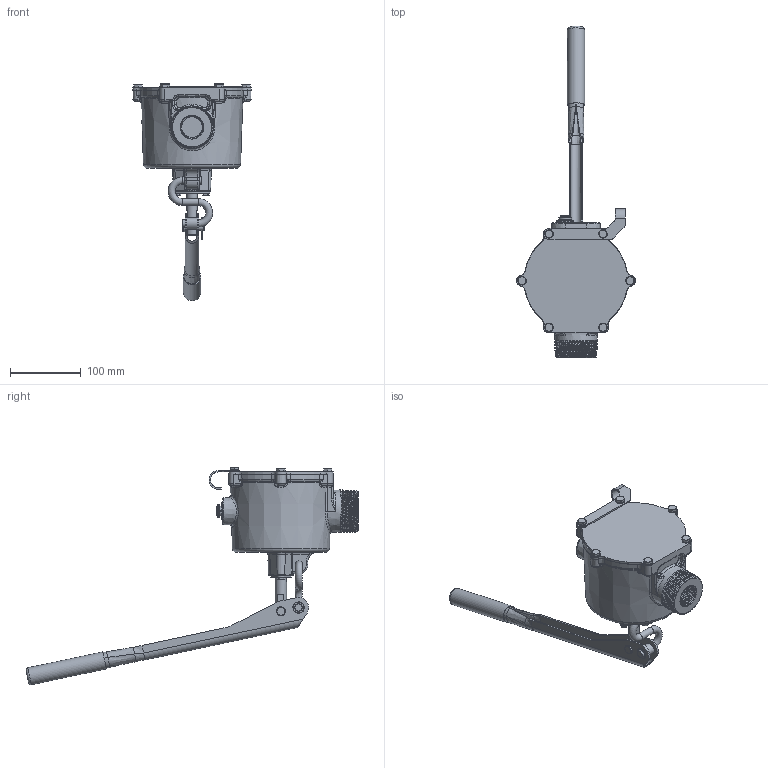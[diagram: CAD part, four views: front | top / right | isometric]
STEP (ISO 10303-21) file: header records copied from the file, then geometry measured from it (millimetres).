
FILE_DESCRIPTION(/* description */ (''),/* implementation_level */ '2;1');
FILE_NAME(/* name */ 'C:\Vault Projects\GPI Eng\New Projects\DHarris\Website model updates\STEP\HP-90.stp',/* time_stamp */ '2022-07-18T12:43:42-05:00',/* author */ ('gdanhar'),/* organization */ (''),/* preprocessor_version */ 'ST-DEVELOPER v18.1',/* originating_system */ 'Autodesk Inventor 2022',/* authorisation */ '');
FILE_SCHEMA (('AUTOMOTIVE_DESIGN { 1 0 10303 214 3 1 1 }'));
Products named in the file (1): HP-90
Bounding box: 167.64 x 468.33 x 306.89 mm (x, y, z)
Volume: 2097025.1 mm3; surface area: 177180.3 mm2
Topology: 3 solids, 4 shells, 946 faces, 2461 edges, 1528 vertices
Faces by surface type: cylinder 309, plane 249, cone 158, bspline 157, torus 63, sphere 10
Full cylindrical faces by diameter (mm): 2.807 x1, 6.35 x41, 6.482 x36, 9.411 x1, 9.525 x2, 9.652 x1, 9.906 x1, 10.008 x4, 10.135 x2, 10.312 x1, 11.125 x6, 11.989 x6, 12.7 x1, 14.224 x1, 15.824 x2, 15.875 x1, 15.977 x2, 16.002 x1, 18.034 x1, 20.345 x1, 23.876 x1, 24.384 x1, 29.362 x5
Entity records: 52655 total; most frequent: CARTESIAN_POINT 30278, ORIENTED_EDGE 4890, DIRECTION 3862, EDGE_CURVE 2445, VERTEX_POINT 1528, AXIS2_PLACEMENT_3D 1525, EDGE_LOOP 995, FACE_OUTER_BOUND 946
